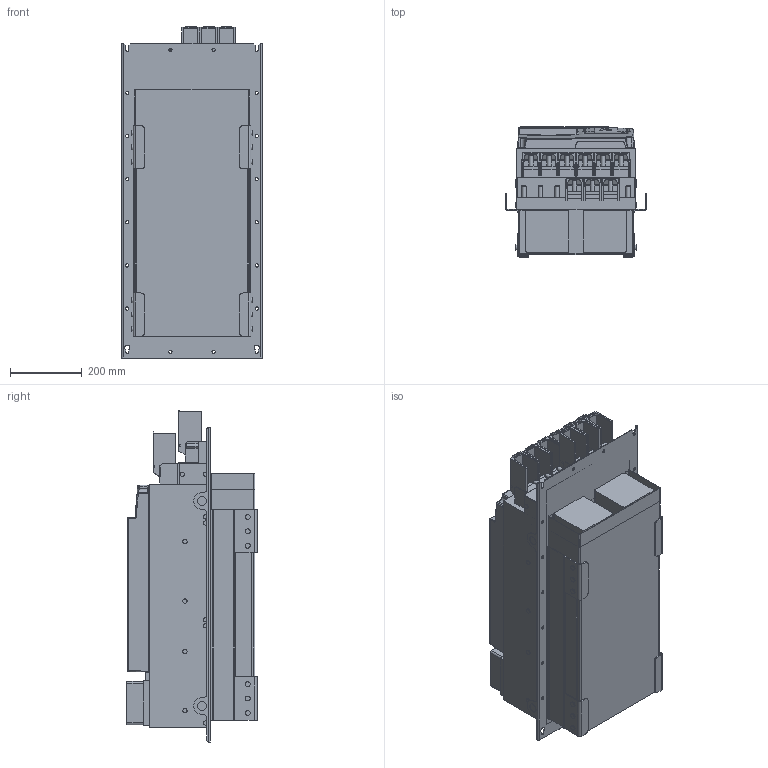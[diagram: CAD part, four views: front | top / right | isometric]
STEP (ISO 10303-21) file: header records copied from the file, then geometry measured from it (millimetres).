
FILE_DESCRIPTION (( 'STEP AP214' ), '1' );
FILE_NAME ('F6-8TR5-K000.STEP', '2021-03-02T14:13:50', ( '' ), ( '' ), 'SwSTEP 2.0', 'SolidWorks 2019', '' );
FILE_SCHEMA (( 'AUTOMOTIVE_DESIGN' ));
Length unit declared in the file: millimetre
Products named in the file (15): 10063225_000; 10063199_000; 10059764_000_Blindabdeckung (Kundenmodell); 10035735_000_Kundenmodell; 10058413_000; 10063180_000; 10044088_000_Kundenmodell; 10063850_000_Kundenmodell; 10061505_000; 10063852_000; F6-8TR5-K000; 10040552_000_Kundenmodell; 10038044_000_Kundemodell; 10059765_000; 10047771_000_Kundenmodell
Assembly tree (14 placements, depth 4):
  F6-8TR5-K000
    10063850_000_Kundenmodell
      10038044_000_Kundemodell
        10063180_000
      10063852_000
    10040552_000_Kundenmodell
      10047771_000_Kundenmodell
        10063225_000
      10063199_000
    10044088_000_Kundenmodell
      10061505_000
    10035735_000_Kundenmodell
      10059764_000_Blindabdeckung (Kundenmodell)
        10059765_000
      10058413_000
Bounding box: 392 x 361.9 x 923.32 mm (x, y, z)
Volume: 83265589.8 mm3; surface area: 3132142.2 mm2
Topology: 7 solids, 43 shells, 2999 faces, 7628 edges, 4760 vertices
Faces by surface type: plane 1579, cylinder 904, bspline 227, sphere 154, cone 90, torus 45
Entity records: 96416 total; most frequent: CARTESIAN_POINT 25358, ORIENTED_EDGE 15034, DIRECTION 14124, EDGE_CURVE 7517, LINE 4800, VECTOR 4800, VERTEX_POINT 4757, AXIS2_PLACEMENT_3D 4662
